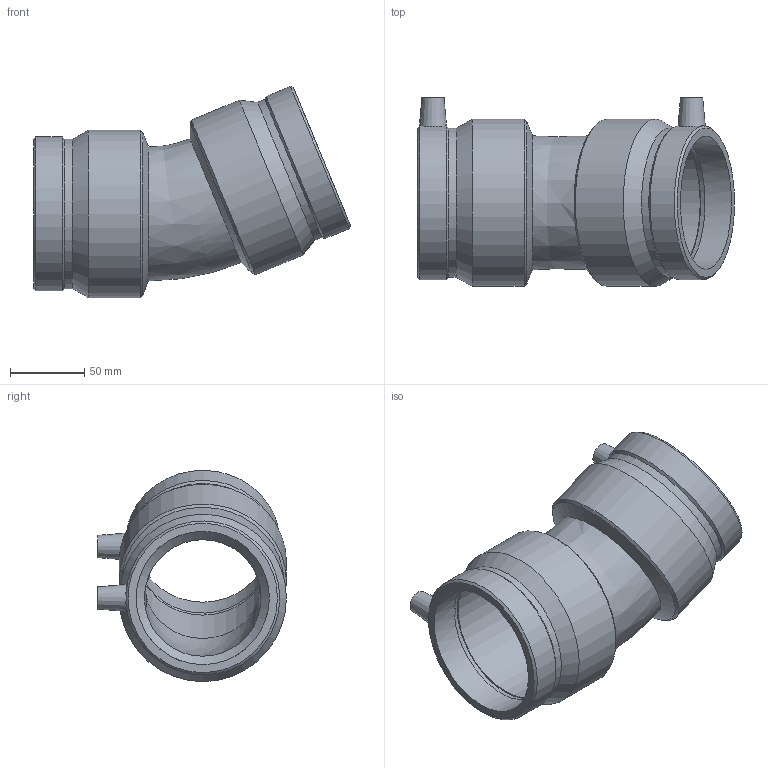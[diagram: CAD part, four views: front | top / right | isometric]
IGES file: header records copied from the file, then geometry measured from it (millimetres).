
Global section: file name: 490804090.ipt; native system: Autodesk Inventor 2015; preprocessor: unknown; author: KIM; date: 20180412.111807; units: millimetre
Bounding box: 214 x 127.5 x 142.64 mm (x, y, z)
Volume: 528237.2 mm3; surface area: 135675 mm2
Topology: 1 solids, 1 shells, 44 faces, 104 edges, 68 vertices
Faces by surface type: cone 14, revolution 12, plane 10, cylinder 8
Full cylindrical faces by diameter (mm): 4 x2, 100.841 x2, 113 x2
